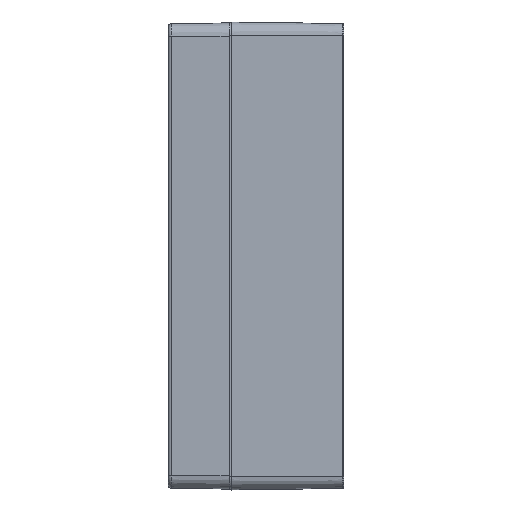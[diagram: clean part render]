
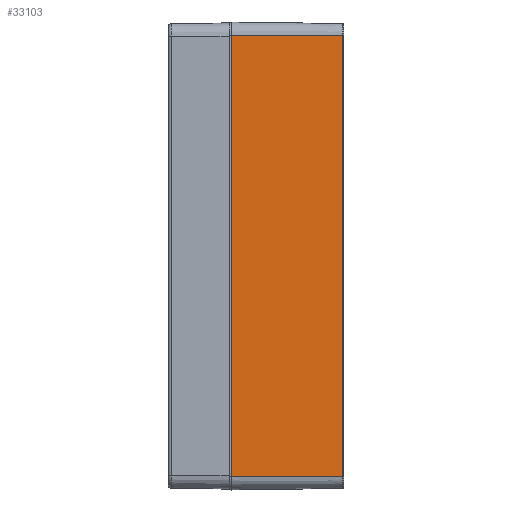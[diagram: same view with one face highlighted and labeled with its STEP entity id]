
A CAD part, left-side view. The second image highlights one B-rep face of the part: STEP entity #33103.
In plain terms, the highlighted planar face has unit normal (-1, -0.014, 0).
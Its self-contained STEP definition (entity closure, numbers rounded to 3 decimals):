
#1341 = ORIENTED_EDGE ( 'NONE', *, *, #29256, .T. ) ;
#2710 = PLANE ( 'NONE',  #19613 ) ;
#2741 = EDGE_CURVE ( 'NONE', #14384, #35754, #36355, .T. ) ;
#3023 = LINE ( 'NONE', #35664, #26139 ) ;
#3775 = VERTEX_POINT ( 'NONE', #38260 ) ;
#3858 = EDGE_CURVE ( 'NONE', #3775, #32307, #3023, .T. ) ;
#6576 = CARTESIAN_POINT ( 'NONE',  ( -150.3, 0., -109. ) ) ;
#6648 = DIRECTION ( 'NONE',  ( -1., -0.014, 0. ) ) ;
#7257 = ORIENTED_EDGE ( 'NONE', *, *, #3858, .T. ) ;
#8750 = CARTESIAN_POINT ( 'NONE',  ( -150.286, -1., 109. ) ) ;
#11447 = DIRECTION ( 'NONE',  ( 0., 0., 1. ) ) ;
#11499 = ORIENTED_EDGE ( 'NONE', *, *, #16918, .T. ) ;
#12680 = DIRECTION ( 'NONE',  ( -0.014, 1., 0. ) ) ;
#13521 = DIRECTION ( 'NONE',  ( 0., 0., -1. ) ) ;
#14384 = VERTEX_POINT ( 'NONE', #20257 ) ;
#14737 = LINE ( 'NONE', #25443, #25130 ) ;
#16918 = EDGE_CURVE ( 'NONE', #32307, #35754, #27290, .T. ) ;
#19613 = AXIS2_PLACEMENT_3D ( 'NONE', #33146, #6648, #29212 ) ;
#19797 = FACE_OUTER_BOUND ( 'NONE', #26415, .T. ) ;
#20257 = CARTESIAN_POINT ( 'NONE',  ( -149.517, -56.107, -109. ) ) ;
#20494 = CARTESIAN_POINT ( 'NONE',  ( -150.286, -1., 109. ) ) ;
#21585 = VECTOR ( 'NONE', #13521, 1000. ) ;
#25130 = VECTOR ( 'NONE', #11447, 1000. ) ;
#25443 = CARTESIAN_POINT ( 'NONE',  ( -149.517, -56.107, 109. ) ) ;
#26082 = DIRECTION ( 'NONE',  ( -0.014, 1., 0. ) ) ;
#26139 = VECTOR ( 'NONE', #12680, 1000. ) ;
#26415 = EDGE_LOOP ( 'NONE', ( #7257, #11499, #40988, #1341 ) ) ;
#27290 = LINE ( 'NONE', #20494, #21585 ) ;
#29212 = DIRECTION ( 'NONE',  ( 0.014, -1., 0. ) ) ;
#29256 = EDGE_CURVE ( 'NONE', #14384, #3775, #14737, .T. ) ;
#31546 = VECTOR ( 'NONE', #26082, 1000. ) ;
#32307 = VERTEX_POINT ( 'NONE', #8750 ) ;
#33103 = ADVANCED_FACE ( 'NONE', ( #19797 ), #2710, .T. ) ;
#33146 = CARTESIAN_POINT ( 'NONE',  ( -150.3, 0., 109. ) ) ;
#35664 = CARTESIAN_POINT ( 'NONE',  ( -150.3, 0., 109. ) ) ;
#35697 = CARTESIAN_POINT ( 'NONE',  ( -150.286, -1., -109. ) ) ;
#35754 = VERTEX_POINT ( 'NONE', #35697 ) ;
#36355 = LINE ( 'NONE', #6576, #31546 ) ;
#38260 = CARTESIAN_POINT ( 'NONE',  ( -149.517, -56.107, 109. ) ) ;
#40988 = ORIENTED_EDGE ( 'NONE', *, *, #2741, .F. ) ;
